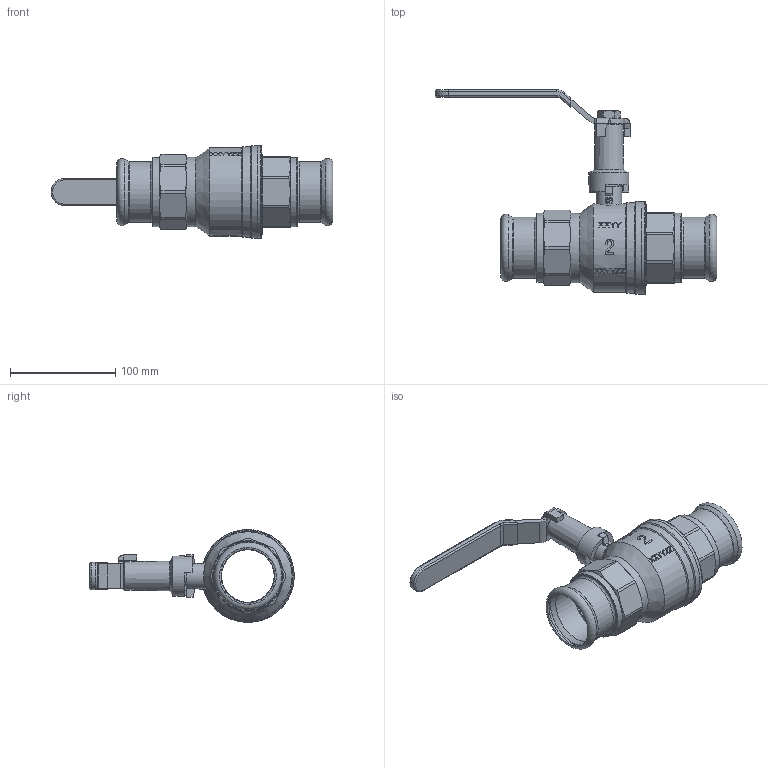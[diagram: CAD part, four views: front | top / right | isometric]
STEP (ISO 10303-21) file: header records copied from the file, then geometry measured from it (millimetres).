
FILE_DESCRIPTION((''),'2;1');
FILE_NAME('P:\Fastrack\53972_CRANE 3D\Press Fit\Fig_100PF\100EXS-PF\54MM\Fig_100EXS-PF-54MM.stp','2012-01-19T09:26:35',('dcole'),(''),'Autodesk Inventor 2008','Autodesk Inventor 2008','');
FILE_SCHEMA(('AUTOMOTIVE_DESIGN { 1 0 10303 214 1 1 1 1 }'));
Length unit declared in the file: millimetre
Products named in the file (1): Fig_100EXS-PF-54MM
Bounding box: 267.5 x 194 x 88 mm (x, y, z)
Volume: 388117.2 mm3; surface area: 162925.7 mm2
Topology: 1 solids, 8 shells, 921 faces, 2763 edges, 1966 vertices
Faces by surface type: plane 457, bspline 201, cylinder 153, cone 88, torus 19, sphere 3
Full cylindrical faces by diameter (mm): 3 x2, 12 x1, 14 x1, 14.1 x2, 14.5 x1, 15 x1, 16 x1, 16.5 x1, 17.5 x1, 18 x1, 18.1 x1, 18.3 x1, 18.5 x2, 24.5 x1, 28 x1, 38 x2, 50 x5, 54 x4, 56.2 x2, 56.656 x2, 58 x2, 60 x2, 60.2 x2, 61 x4, 65.8 x2, 66 x1, 73 x1, 79 x1, 81 x1, 81.2 x1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
Entity records: 69586 total; most frequent: CARTESIAN_POINT 45853, ORIENTED_EDGE 5150, DIRECTION 3858, EDGE_CURVE 2575, VERTEX_POINT 1907, AXIS2_PLACEMENT_3D 1307, VECTOR 1244, LINE 1244
